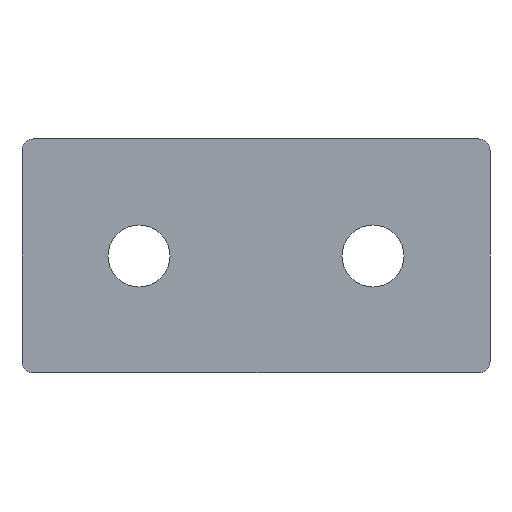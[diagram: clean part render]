
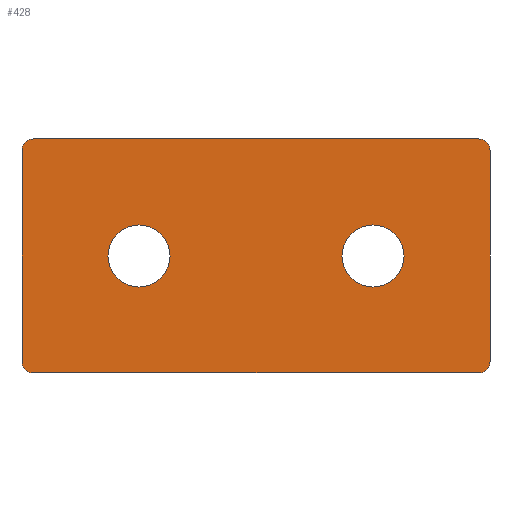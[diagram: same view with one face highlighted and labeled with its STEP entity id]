
A CAD part, front view. The second image highlights one B-rep face of the part: STEP entity #428.
In plain terms, the highlighted planar face has unit normal (0, -1, 0).
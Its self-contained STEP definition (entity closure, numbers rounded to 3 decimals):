
#4 = VERTEX_POINT ( 'NONE', #459 ) ;
#7 = EDGE_CURVE ( 'NONE', #113, #312, #12, .T. ) ;
#11 = EDGE_CURVE ( 'NONE', #250, #500, #581, .T. ) ;
#12 = CIRCLE ( 'NONE', #798, 2.65 ) ;
#14 = CARTESIAN_POINT ( 'NONE',  ( 0., 0., -19. ) ) ;
#15 = EDGE_CURVE ( 'NONE', #4, #264, #346, .T. ) ;
#29 = AXIS2_PLACEMENT_3D ( 'NONE', #494, #808, #303 ) ;
#30 = LINE ( 'NONE', #406, #768 ) ;
#40 = CARTESIAN_POINT ( 'NONE',  ( 40., 0., -1. ) ) ;
#45 = ORIENTED_EDGE ( 'NONE', *, *, #7, .T. ) ;
#48 = ORIENTED_EDGE ( 'NONE', *, *, #698, .T. ) ;
#51 = EDGE_LOOP ( 'NONE', ( #618, #48, #443, #337, #574, #265, #117, #399 ) ) ;
#68 = AXIS2_PLACEMENT_3D ( 'NONE', #779, #639, #146 ) ;
#87 = EDGE_CURVE ( 'NONE', #88, #242, #474, .T. ) ;
#88 = VERTEX_POINT ( 'NONE', #287 ) ;
#100 = EDGE_CURVE ( 'NONE', #270, #500, #592, .T. ) ;
#106 = CARTESIAN_POINT ( 'NONE',  ( 30., 0., -12.65 ) ) ;
#108 = CIRCLE ( 'NONE', #584, 1. ) ;
#113 = VERTEX_POINT ( 'NONE', #603 ) ;
#117 = ORIENTED_EDGE ( 'NONE', *, *, #87, .F. ) ;
#127 = CARTESIAN_POINT ( 'NONE',  ( 40., 0., -19. ) ) ;
#131 = CARTESIAN_POINT ( 'NONE',  ( 0., 0., -1. ) ) ;
#139 = VERTEX_POINT ( 'NONE', #471 ) ;
#146 = DIRECTION ( 'NONE',  ( 0., 0., -1. ) ) ;
#161 = LINE ( 'NONE', #411, #800 ) ;
#175 = CARTESIAN_POINT ( 'NONE',  ( 10., 0., -12.65 ) ) ;
#185 = CARTESIAN_POINT ( 'NONE',  ( 39., 0., -20. ) ) ;
#192 = AXIS2_PLACEMENT_3D ( 'NONE', #667, #293, #426 ) ;
#203 = FACE_OUTER_BOUND ( 'NONE', #51, .T. ) ;
#208 = CARTESIAN_POINT ( 'NONE',  ( 30., 0., -10. ) ) ;
#210 = EDGE_LOOP ( 'NONE', ( #742, #468 ) ) ;
#217 = DIRECTION ( 'NONE',  ( 0., 0., -1. ) ) ;
#218 = AXIS2_PLACEMENT_3D ( 'NONE', #567, #257, #827 ) ;
#228 = EDGE_CURVE ( 'NONE', #250, #139, #30, .T. ) ;
#242 = VERTEX_POINT ( 'NONE', #790 ) ;
#247 = FACE_BOUND ( 'NONE', #210, .T. ) ;
#248 = CARTESIAN_POINT ( 'NONE',  ( 1., 0., -19. ) ) ;
#250 = VERTEX_POINT ( 'NONE', #185 ) ;
#253 = VECTOR ( 'NONE', #408, 1000. ) ;
#257 = DIRECTION ( 'NONE',  ( 0., 1., 0. ) ) ;
#264 = VERTEX_POINT ( 'NONE', #175 ) ;
#265 = ORIENTED_EDGE ( 'NONE', *, *, #292, .T. ) ;
#267 = ORIENTED_EDGE ( 'NONE', *, *, #645, .T. ) ;
#270 = VERTEX_POINT ( 'NONE', #40 ) ;
#278 = CARTESIAN_POINT ( 'NONE',  ( 39., 0., -19. ) ) ;
#287 = CARTESIAN_POINT ( 'NONE',  ( 1., 0., 0. ) ) ;
#292 = EDGE_CURVE ( 'NONE', #270, #242, #454, .T. ) ;
#293 = DIRECTION ( 'NONE',  ( 0., -1., 0. ) ) ;
#303 = DIRECTION ( 'NONE',  ( 0., 0., 1. ) ) ;
#309 = PLANE ( 'NONE',  #68 ) ;
#312 = VERTEX_POINT ( 'NONE', #106 ) ;
#317 = DIRECTION ( 'NONE',  ( 0., -1., 0. ) ) ;
#319 = AXIS2_PLACEMENT_3D ( 'NONE', #278, #776, #217 ) ;
#320 = CIRCLE ( 'NONE', #29, 2.65 ) ;
#337 = ORIENTED_EDGE ( 'NONE', *, *, #11, .T. ) ;
#344 = DIRECTION ( 'NONE',  ( -1., 0., 0. ) ) ;
#346 = CIRCLE ( 'NONE', #555, 2.65 ) ;
#347 = CARTESIAN_POINT ( 'NONE',  ( 0., 0., 0. ) ) ;
#399 = ORIENTED_EDGE ( 'NONE', *, *, #510, .T. ) ;
#406 = CARTESIAN_POINT ( 'NONE',  ( 0., 0., -20. ) ) ;
#408 = DIRECTION ( 'NONE',  ( 1., 0., 0. ) ) ;
#411 = CARTESIAN_POINT ( 'NONE',  ( 0., 0., 0. ) ) ;
#412 = CARTESIAN_POINT ( 'NONE',  ( 40., 0., 0. ) ) ;
#426 = DIRECTION ( 'NONE',  ( 0., 0., -1. ) ) ;
#428 = ADVANCED_FACE ( 'NONE', ( #247, #713, #203 ), #309, .T. ) ;
#443 = ORIENTED_EDGE ( 'NONE', *, *, #228, .F. ) ;
#451 = DIRECTION ( 'NONE',  ( 0., 0., 1. ) ) ;
#454 = CIRCLE ( 'NONE', #192, 1. ) ;
#458 = VERTEX_POINT ( 'NONE', #131 ) ;
#459 = CARTESIAN_POINT ( 'NONE',  ( 10., 0., -7.35 ) ) ;
#463 = DIRECTION ( 'NONE',  ( 0., 1., 0. ) ) ;
#468 = ORIENTED_EDGE ( 'NONE', *, *, #809, .T. ) ;
#471 = CARTESIAN_POINT ( 'NONE',  ( 1., 0., -20. ) ) ;
#474 = LINE ( 'NONE', #347, #253 ) ;
#494 = CARTESIAN_POINT ( 'NONE',  ( 30., 0., -10. ) ) ;
#500 = VERTEX_POINT ( 'NONE', #127 ) ;
#506 = CARTESIAN_POINT ( 'NONE',  ( 1., 0., -1. ) ) ;
#510 = EDGE_CURVE ( 'NONE', #88, #458, #108, .T. ) ;
#529 = CIRCLE ( 'NONE', #545, 1. ) ;
#531 = DIRECTION ( 'NONE',  ( 0., 0., 1. ) ) ;
#540 = DIRECTION ( 'NONE',  ( 0., 0., -1. ) ) ;
#545 = AXIS2_PLACEMENT_3D ( 'NONE', #248, #804, #550 ) ;
#550 = DIRECTION ( 'NONE',  ( 0., 0., -1. ) ) ;
#555 = AXIS2_PLACEMENT_3D ( 'NONE', #709, #463, #451 ) ;
#567 = CARTESIAN_POINT ( 'NONE',  ( 10., 0., -10. ) ) ;
#574 = ORIENTED_EDGE ( 'NONE', *, *, #100, .F. ) ;
#581 = CIRCLE ( 'NONE', #319, 1. ) ;
#584 = AXIS2_PLACEMENT_3D ( 'NONE', #506, #317, #689 ) ;
#589 = EDGE_CURVE ( 'NONE', #817, #458, #161, .T. ) ;
#592 = LINE ( 'NONE', #412, #673 ) ;
#603 = CARTESIAN_POINT ( 'NONE',  ( 30., 0., -7.35 ) ) ;
#618 = ORIENTED_EDGE ( 'NONE', *, *, #589, .F. ) ;
#639 = DIRECTION ( 'NONE',  ( 0., -1., 0. ) ) ;
#645 = EDGE_CURVE ( 'NONE', #312, #113, #320, .T. ) ;
#661 = DIRECTION ( 'NONE',  ( 0., 0., 1. ) ) ;
#667 = CARTESIAN_POINT ( 'NONE',  ( 39., 0., -1. ) ) ;
#673 = VECTOR ( 'NONE', #540, 1000. ) ;
#689 = DIRECTION ( 'NONE',  ( 0., 0., -1. ) ) ;
#698 = EDGE_CURVE ( 'NONE', #817, #139, #529, .T. ) ;
#704 = CIRCLE ( 'NONE', #218, 2.65 ) ;
#709 = CARTESIAN_POINT ( 'NONE',  ( 10., 0., -10. ) ) ;
#713 = FACE_BOUND ( 'NONE', #774, .T. ) ;
#742 = ORIENTED_EDGE ( 'NONE', *, *, #15, .T. ) ;
#768 = VECTOR ( 'NONE', #344, 1000. ) ;
#774 = EDGE_LOOP ( 'NONE', ( #45, #267 ) ) ;
#776 = DIRECTION ( 'NONE',  ( 0., -1., 0. ) ) ;
#779 = CARTESIAN_POINT ( 'NONE',  ( 0., 0., -20. ) ) ;
#780 = DIRECTION ( 'NONE',  ( 0., 1., 0. ) ) ;
#790 = CARTESIAN_POINT ( 'NONE',  ( 39., 0., 0. ) ) ;
#798 = AXIS2_PLACEMENT_3D ( 'NONE', #208, #780, #531 ) ;
#800 = VECTOR ( 'NONE', #661, 1000. ) ;
#804 = DIRECTION ( 'NONE',  ( 0., -1., 0. ) ) ;
#808 = DIRECTION ( 'NONE',  ( 0., 1., 0. ) ) ;
#809 = EDGE_CURVE ( 'NONE', #264, #4, #704, .T. ) ;
#817 = VERTEX_POINT ( 'NONE', #14 ) ;
#827 = DIRECTION ( 'NONE',  ( 0., 0., 1. ) ) ;
